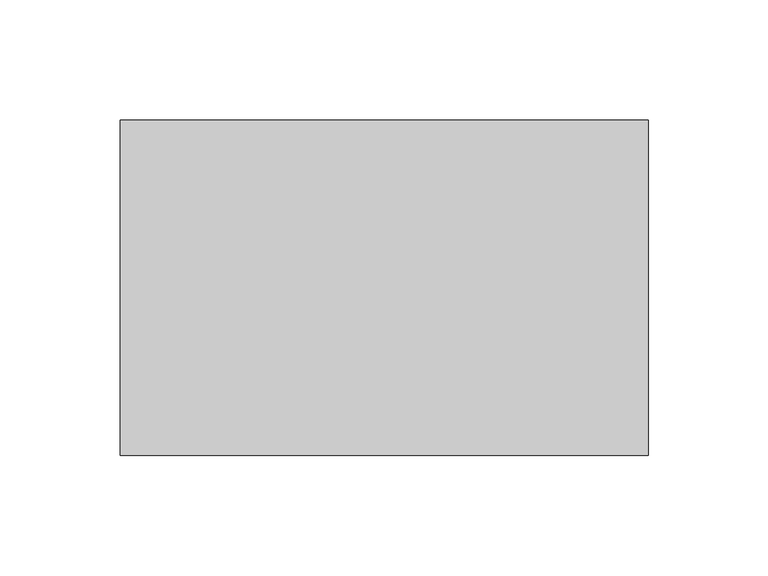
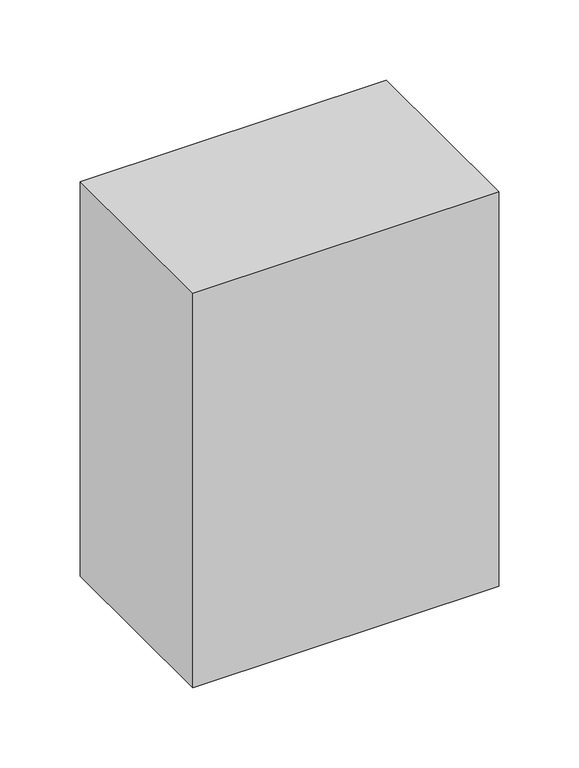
"""IFC4 building model written with IfcOpenShell, lengths in millimetres: proxy geometry."""

import ifcopenshell
import ifcopenshell.guid

model = None  # the IFC model being written
_history = None  # IfcOwnerHistory: only IFC2X3 demands one
_inside = {}  # id of a spatial element -> (the spatial element, [elements in it])
_under = {}  # id of a project, library or spatial element -> (it, [spatial elements below it])
_declared = {}  # id of a project -> (the project, [libraries it declares])
_typed = {}  # id of a type object -> (the type object, [elements of that type])
_made_of = {}  # id of a material, layer set ... -> (it, [elements and type objects made of it])


def new_model(schema):
    """Start an empty IFC model of exactly this schema.

    Asked for "IFC4X3", IfcOpenShell would pick the latest addendum, in which some entities
    have other attributes; the version numbers below select the first issue.
    IFC2X3 requires an IfcOwnerHistory on every rooted entity: one is made here for all.
    """
    global model, _history
    if schema == "IFC4X3":
        model = ifcopenshell.file(schema_version=(4, 3, 0, 0))
    else:
        model = ifcopenshell.file(schema=schema)
    _inside.clear()
    _under.clear()
    _declared.clear()
    _typed.clear()
    _made_of.clear()
    _history = None
    if model.schema == "IFC2X3":
        org = make("IfcOrganization", Name="unknown")
        user = make(
            "IfcPersonAndOrganization",
            ThePerson=make("IfcPerson", FamilyName="unknown"),
            TheOrganization=org,
        )
        app = make(
            "IfcApplication",
            ApplicationDeveloper=org,
            Version="unknown",
            ApplicationFullName="unknown",
            ApplicationIdentifier="unknown",
        )
        _history = make(
            "IfcOwnerHistory",
            OwningUser=user,
            OwningApplication=app,
            ChangeAction="ADDED",
            CreationDate=0,
        )
    return model


def make(cls, **values):
    """One entity of the class cls with the attributes given. An attribute that is None is left unset."""
    return model.create_entity(
        cls, **{name: value for name, value in values.items() if value is not None}
    )


def rooted(cls, **values):
    """An entity with a GlobalId (a new one), such as an element, a storey or a relation."""
    return make(cls, GlobalId=ifcopenshell.guid.new(), OwnerHistory=_history, **values)


def si_unit(unit_type, name, prefix=None):
    """IfcSIUnit, for example si_unit("LENGTHUNIT", "METRE", prefix="MILLI")."""
    return make("IfcSIUnit", UnitType=unit_type, Prefix=prefix, Name=name)


def assignment(units):
    """IfcUnitAssignment: the units of a project."""
    return None if units is None else make("IfcUnitAssignment", Units=units)


def point(xyz):
    """IfcCartesianPoint."""
    return None if xyz is None else make("IfcCartesianPoint", Coordinates=xyz)


def direction(xyz):
    """IfcDirection."""
    return None if xyz is None else make("IfcDirection", DirectionRatios=xyz)


def frame(location, z_axis=None, x_axis=None):
    """IfcAxis2Placement3D, a coordinate frame: its origin and axes. An axis left out is left unset."""
    return make(
        "IfcAxis2Placement3D",
        Location=point(location),
        Axis=direction(z_axis),
        RefDirection=direction(x_axis),
    )


def origin():
    """The frame at (0, 0, 0) with its axes left unset."""
    return frame((0.0, 0.0, 0.0))


def place(relative_to, where):
    """IfcLocalPlacement: puts the frame where relative to a parent placement (None: the world)."""
    return make(
        "IfcLocalPlacement", PlacementRelTo=relative_to, RelativePlacement=where
    )


def context(
    kind, dimensions, precision=None, world=None, true_north=None, identifier=None
):
    """IfcGeometricRepresentationContext, for example the 3D "Model" context."""
    return make(
        "IfcGeometricRepresentationContext",
        ContextIdentifier=identifier,
        ContextType=kind,
        CoordinateSpaceDimension=dimensions,
        Precision=precision,
        WorldCoordinateSystem=world,
        TrueNorth=true_north,
    )


def project(units=None, contexts=None):
    """IfcProject with its units and contexts."""
    return rooted(
        "IfcProject",
        Name="project",
        RepresentationContexts=contexts,
        UnitsInContext=assignment(units),
    )


def spatial(cls, under=None, at=None, **own):
    """A site, building, storey or space (cls), placed at a placement, below another one or the project."""
    s = rooted(cls, ObjectPlacement=at, **own)
    if under is not None:
        _under.setdefault(under.id(), (under, []))[1].append(s)
    return s


def polyline(points):
    """IfcPolyline through the points."""
    return make("IfcPolyline", Points=[point(p) for p in points])


def outline(outer, holes=None, kind="AREA"):
    """IfcArbitraryClosedProfileDef: a profile drawn as a closed curve; with holes, ...WithVoids."""
    if holes is None:
        return make("IfcArbitraryClosedProfileDef", ProfileType=kind, OuterCurve=outer)
    return make(
        "IfcArbitraryProfileDefWithVoids",
        ProfileType=kind,
        OuterCurve=outer,
        InnerCurves=holes,
    )


def extrude(swept, where, along, depth):
    """IfcExtrudedAreaSolid: the profile swept, set in the frame where, extruded along a direction by depth."""
    return make(
        "IfcExtrudedAreaSolid",
        SweptArea=swept,
        Position=where,
        ExtrudedDirection=direction(along),
        Depth=depth,
    )


def shape(context_of_items, identifier, shape_type, items):
    """IfcShapeRepresentation: the items that make up one representation, for example the "Body"."""
    return make(
        "IfcShapeRepresentation",
        ContextOfItems=context_of_items,
        RepresentationIdentifier=identifier,
        RepresentationType=shape_type,
        Items=items,
    )


def source(mapping_origin, context_of_items, identifier, shape_type, items):
    """IfcRepresentationMap: a shape defined once, which mapped items show again and again."""
    return make(
        "IfcRepresentationMap",
        MappingOrigin=mapping_origin,
        MappedRepresentation=shape(context_of_items, identifier, shape_type, items),
    )


def transform(
    local_origin,
    x_axis=None,
    y_axis=None,
    z_axis=None,
    scale=None,
    scale2=None,
    scale3=None,
    uniform=True,
):
    """IfcCartesianTransformationOperator3D, or its non-uniform kind. x_axis, y_axis, z_axis: its Axis1, 2, 3."""
    if uniform:
        return make(
            "IfcCartesianTransformationOperator3D",
            Axis1=direction(x_axis),
            Axis2=direction(y_axis),
            LocalOrigin=point(local_origin),
            Scale=scale,
            Axis3=direction(z_axis),
        )
    return make(
        "IfcCartesianTransformationOperator3DnonUniform",
        Axis1=direction(x_axis),
        Axis2=direction(y_axis),
        LocalOrigin=point(local_origin),
        Scale=scale,
        Axis3=direction(z_axis),
        Scale2=scale2,
        Scale3=scale3,
    )


def mapped(mapping_source, mapping_target):
    """IfcMappedItem: shows the shape of a source again, moved by a transform."""
    return make(
        "IfcMappedItem", MappingSource=mapping_source, MappingTarget=mapping_target
    )


def made_of(thing, what):
    """Note that an element or type object is made of a material, layer set ...; save() writes the relation."""
    if what is not None:
        _made_of.setdefault(what.id(), (what, []))[1].append(thing)
    return thing


def element(
    cls,
    number,
    at=None,
    inside=None,
    cuts=None,
    type_object=None,
    material=None,
    context=None,
    identifier="Body",
    shape_type=None,
    held_by="IfcProductDefinitionShape",
    body=None,
    shapes=None,
    **own,
):
    """One element of the class cls, such as IfcWall. Its Tag is "e" and its number.

    at: its placement. inside: the storey or other place that contains it. cuts: it is an
    opening in that element (IfcRelVoidsElement). A single representation is given by context,
    identifier, shape_type and body (its items); several are given by shapes. held_by: the class
    of the entity that holds the representations. save() writes the other relations.
    """
    e = rooted(cls, Tag="e%d" % number, ObjectPlacement=at, **own)
    if body is not None:
        shapes = [shape(context, identifier, shape_type, body)]
    if shapes is not None:
        e.Representation = make(held_by, Representations=shapes)
    if inside is not None:
        _inside.setdefault(inside.id(), (inside, []))[1].append(e)
    if cuts is not None:
        rooted(
            "IfcRelVoidsElement", RelatingBuildingElement=cuts, RelatedOpeningElement=e
        )
    if type_object is not None:
        _typed.setdefault(type_object.id(), (type_object, []))[1].append(e)
    return made_of(e, material)


def aggregate(whole, parts):
    """IfcRelAggregates: a whole, such as a stair, and the parts it consists of."""
    return rooted("IfcRelAggregates", RelatingObject=whole, RelatedObjects=parts)


def save(model, path):
    """Write the relations noted so far, then the file.

    IfcRelAggregates (storeys below a building ...), IfcRelContainedInSpatialStructure (elements
    in a storey), IfcRelDefinesByType, IfcRelAssociatesMaterial and IfcRelDeclares: one each for
    every whole, place, type object, material and project.
    """
    for whole, parts in _under.values():
        aggregate(whole, parts)
    for where, things in _inside.values():
        rooted(
            "IfcRelContainedInSpatialStructure",
            RelatedElements=things,
            RelatingStructure=where,
        )
    for kind, things in _typed.values():
        rooted("IfcRelDefinesByType", RelatedObjects=things, RelatingType=kind)
    for what, things in _made_of.values():
        rooted("IfcRelAssociatesMaterial", RelatedObjects=things, RelatingMaterial=what)
    for by, libraries in _declared.values():
        rooted("IfcRelDeclares", RelatingContext=by, RelatedDefinitions=libraries)
    model.write(path)


def structural_framing_e9acf34c(model_context):
    return source(origin(), model_context, "Body", "SweptSolid", [
        extrude(outline(polyline([(110.0, 70.0), (110.0, -70.0), (-110.0, -70.0), (-110.0, 70.0), (110.0, 70.0)])), frame((0.0, 0.0, -300.0), z_axis=(0.0, 0.0, 1.0), x_axis=(1.0, 0.0, 0.0)), (0.0, 0.0, 1.0), 300.0),
    ])


if __name__ == "__main__":
    model = new_model("IFC4")
    model_context = context("Model", 3, world=origin())
    ifc_project = project(units=[si_unit("LENGTHUNIT", "METRE", prefix="MILLI")], contexts=[model_context])
    site = spatial("IfcSite", under=ifc_project)
    building = spatial("IfcBuilding", under=site)
    placement = place(None, origin())
    structural_framing_shape = structural_framing_e9acf34c(model_context)
    element("IfcBuildingElementProxy", 1, Name="Structural Framing", at=placement, inside=building, context=model_context, shape_type="MappedRepresentation", body=[
        mapped(structural_framing_shape, transform((0.0, 0.0, 0.0), x_axis=(1.0, 0.0, 0.0), y_axis=(0.0, 1.0, 0.0), z_axis=(0.0, 0.0, 1.0))),
    ])
    save(model, "model.ifc")
